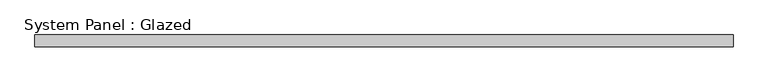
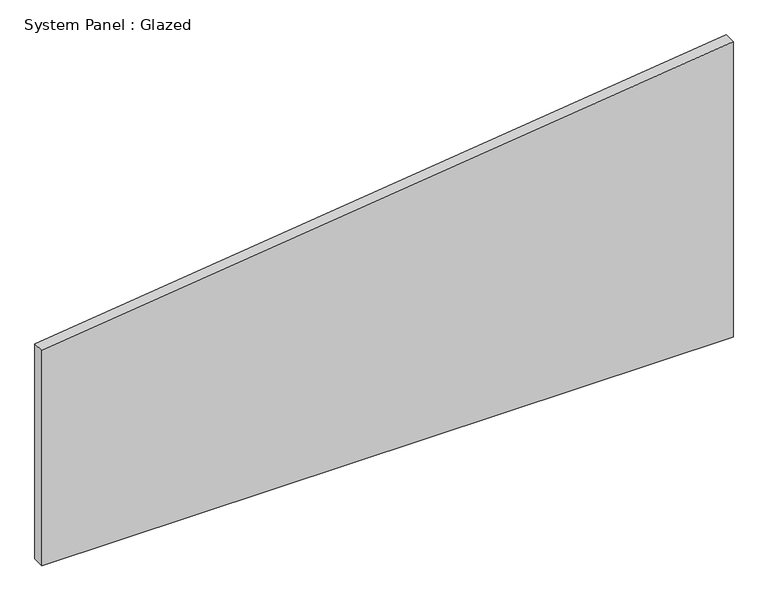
"""IFC4 building model written with IfcOpenShell, lengths in millimetres: plate geometry, System Panel : Glazed."""

from ifc_helpers import new_model, si_unit, frame, origin, place, context, project, spatial, polyline, outline, extrude, source, transform, mapped, element, save


def system_panel_glazed_d58f1996(model_context):
    return source(origin(), model_context, "Body", "SweptSolid", [
        extrude(outline(polyline([(0.0, -726.9631579), (0.0, 726.9631579), (657.0281161, 726.9631579), (478.5084118, -726.9631579), (0.0, -726.9631579)])), frame((0.0, 24.5, 0.0), z_axis=(0.0, 1.0, 0.0), x_axis=(0.0, 0.0, 1.0)), (0.0, 0.0, 1.0), 25.0),
    ])


if __name__ == "__main__":
    model = new_model("IFC4")
    model_context = context("Model", 3, world=origin())
    ifc_project = project(units=[si_unit("LENGTHUNIT", "METRE", prefix="MILLI")], contexts=[model_context])
    site = spatial("IfcSite", under=ifc_project)
    building = spatial("IfcBuilding", under=site)
    placement = place(None, origin())
    system_panel_glazed_shape = system_panel_glazed_d58f1996(model_context)
    element("IfcPlate", 1, ObjectType="System Panel : Glazed", at=placement, inside=building, context=model_context, shape_type="MappedRepresentation", body=[
        mapped(system_panel_glazed_shape, transform((0.0, 0.0, 0.0), x_axis=(1.0, 0.0, 0.0), y_axis=(0.0, 1.0, 0.0), z_axis=(0.0, 0.0, 1.0))),
    ])
    save(model, "model.ifc")
